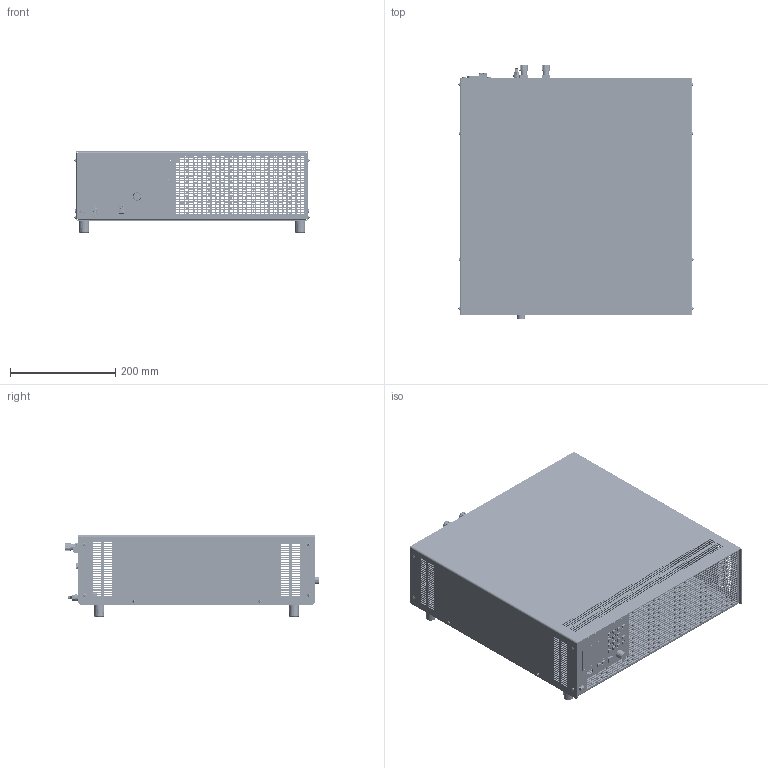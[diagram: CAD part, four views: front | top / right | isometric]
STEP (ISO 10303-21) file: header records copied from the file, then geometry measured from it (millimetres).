
FILE_DESCRIPTION(('STEP AP214'),'1');
FILE_NAME('PLI_M14_19Z_3HE_BPK4_60L_BRB_3D_01.step','2019-02-05T08:53:53',(' '),(' '),'Spatial InterOp 3D',' ',' ');
FILE_SCHEMA(('AUTOMOTIVE_DESIGN { 1 0 10303 214 1 1 1 1 }'));
Length unit declared in the file: millimetre
Products named in the file (1): 1
Bounding box: 446.98 x 483.5 x 154.99 mm (x, y, z)
Volume: 486690.7 mm3; surface area: 1329056.3 mm2
Topology: 121 solids, 2359 shells, 11789 faces, 38237 edges, 29339 vertices
Faces by surface type: plane 7402, cylinder 2108, cone 1704, torus 240, bspline 205, sphere 128, extrusion 2
Entity records: 561068 total; most frequent: CARTESIAN_POINT 109828, DIRECTION 72751, ORIENTED_EDGE 61977, EDGE_CURVE 37383, VECTOR 29479, LINE 29477, VERTEX_POINT 28342, AXIS2_PLACEMENT_3D 21636
